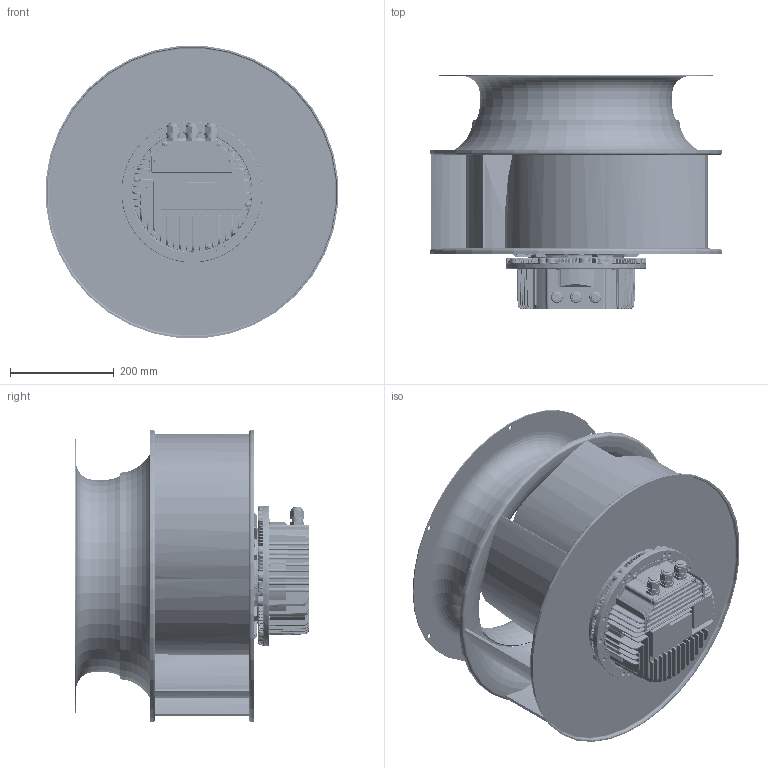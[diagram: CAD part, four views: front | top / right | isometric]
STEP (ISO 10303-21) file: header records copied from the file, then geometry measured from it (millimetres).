
FILE_DESCRIPTION((''),'2;1');
FILE_NAME('GTB056NUT37R_ASM','2017-06-09T',('MINGHAN.CHUNG'),(''),'PRO/ENGINEER BY PARAMETRIC TECHNOLOGY CORPORATION, 2010180','PRO/ENGINEER BY PARAMETRIC TECHNOLOGY CORPORATION, 2010180','');
FILE_SCHEMA(('CONFIG_CONTROL_DESIGN'));
Products named in the file (20): 3329061100--CASE; 3329061100--BUSHING; 3329061100--SHAFT; 3476026700--FIXTURE-2; ROTOR-ASSEMBLY_ASM; 4101288800--15NM-PILLOW; PILLOW-WINDING-ASSEMBLY_ASM; OD150-CAP; CAP-COVER; CABLE-GLAND-M20; SCREW-M4-10-SLOT; SCREW-M5-12; OD150-CAP-ASSY_ASM; 3463320800--FASTENER; OD150-15NM_ASM; R63B2-560X180--TOP-BOTTOM; R63B2-560X180--BLADE; R63B2-500X180_ASM; PUNKER-NOZZLE-ED11-560S; GTB056NUT37R_ASM
Assembly tree (35 placements, depth 4):
  GTB056NUT37R_ASM
    OD150-15NM_ASM
      ROTOR-ASSEMBLY_ASM
        3329061100--CASE
        3329061100--BUSHING
        3329061100--SHAFT
        3476026700--FIXTURE-2
      PILLOW-WINDING-ASSEMBLY_ASM
        4101288800--15NM-PILLOW
      OD150-CAP-ASSY_ASM
        OD150-CAP
        CAP-COVER
        CABLE-GLAND-M20  x3
        SCREW-M4-10-SLOT  x4
        SCREW-M5-12  x6
      3463320800--FASTENER
    R63B2-500X180_ASM
      R63B2-560X180--TOP-BOTTOM
      R63B2-560X180--BLADE  x7
    PUNKER-NOZZLE-ED11-560S
Bounding box: 563.85 x 452.1 x 563.85 mm (x, y, z)
Volume: 5783848.5 mm3; surface area: 2963647.1 mm2
Topology: 32 solids, 37 shells, 7647 faces, 18873 edges, 11153 vertices
Faces by surface type: cylinder 2233, bspline 2117, plane 1393, torus 1031, cone 434, extrusion 201, sphere 173, revolution 65
Entity records: 399117 total; most frequent: CARTESIAN_POINT 245515, ORIENTED_EDGE 34706, DIRECTION 28038, EDGE_CURVE 17353, AXIS2_PLACEMENT_3D 11558, VERTEX_POINT 10361, EDGE_LOOP 7432, FACE_OUTER_BOUND 7160
